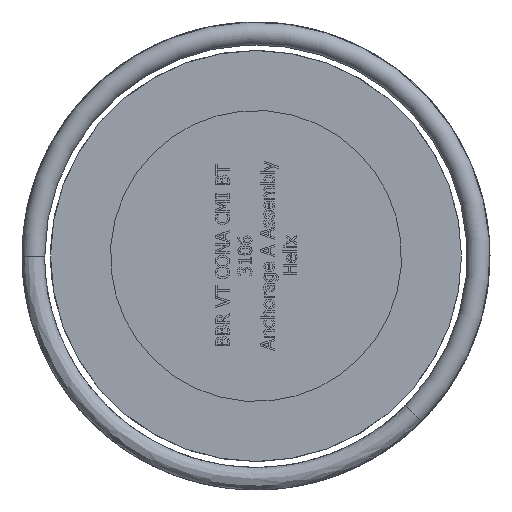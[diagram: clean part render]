
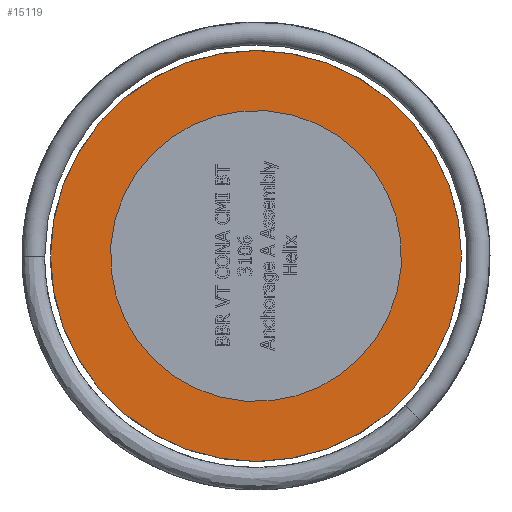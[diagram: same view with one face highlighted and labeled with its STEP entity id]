
A CAD part, left-side view. The second image highlights one B-rep face of the part: STEP entity #15119.
In plain terms, the highlighted planar face has unit normal (-1, 0, 0).
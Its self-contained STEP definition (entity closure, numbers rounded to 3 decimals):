
#126=FACE_BOUND('',#4596,.T.);
#3049=PLANE('',#15651);
#3730=FACE_OUTER_BOUND('',#4595,.T.);
#4595=EDGE_LOOP('',(#12739));
#4596=EDGE_LOOP('',(#12740));
#4736=CIRCLE('',#15647,127.5);
#4739=CIRCLE('',#15652,180.);
#6805=VERTEX_POINT('',#31062);
#6809=VERTEX_POINT('',#31094);
#8794=EDGE_CURVE('',#6805,#6805,#4736,.T.);
#8799=EDGE_CURVE('',#6809,#6809,#4739,.T.);
#12739=ORIENTED_EDGE('',*,*,#8799,.T.);
#12740=ORIENTED_EDGE('',*,*,#8794,.T.);
#15119=ADVANCED_FACE('',(#3730,#126),#3049,.T.);
#15647=AXIS2_PLACEMENT_3D('',#31063,#17912,#17913);
#15651=AXIS2_PLACEMENT_3D('',#31093,#17921,#17922);
#15652=AXIS2_PLACEMENT_3D('',#31095,#17923,#17924);
#17912=DIRECTION('center_axis',(1.,0.,0.));
#17913=DIRECTION('ref_axis',(0.,-0.824,-0.566));
#17921=DIRECTION('center_axis',(-1.,0.,0.));
#17922=DIRECTION('ref_axis',(0.,0.,
1.));
#17923=DIRECTION('center_axis',(-1.,0.,0.));
#17924=DIRECTION('ref_axis',(0.,-1.,0.));
#31062=CARTESIAN_POINT('',(-250.,105.119,72.154));
#31063=CARTESIAN_POINT('Origin',(-250.,0.,0.));
#31093=CARTESIAN_POINT('Origin',(-250.,-142.25,0.));
#31094=CARTESIAN_POINT('',(-250.,180.,0.));
#31095=CARTESIAN_POINT('Origin',(-250.,0.,0.));
